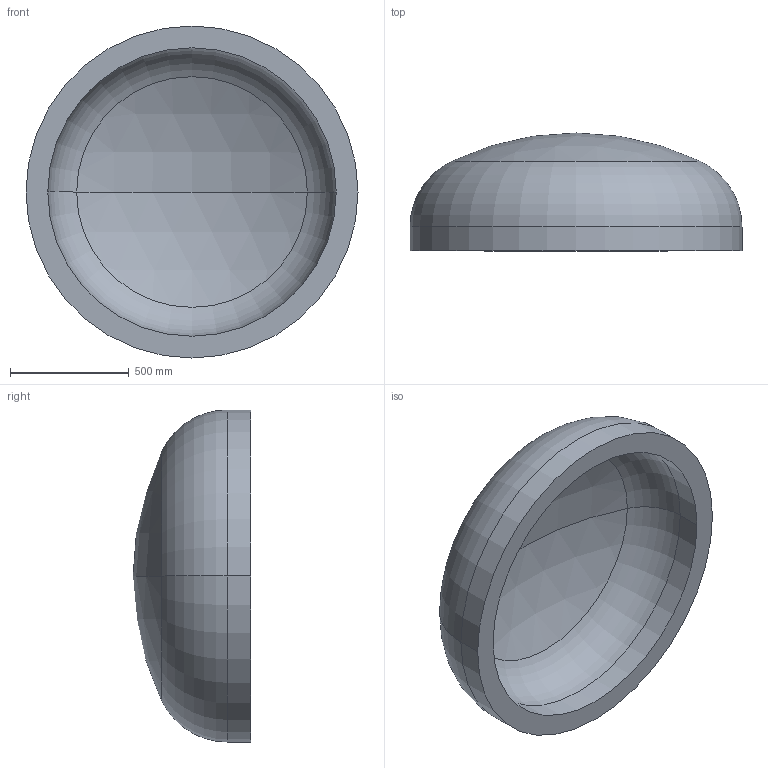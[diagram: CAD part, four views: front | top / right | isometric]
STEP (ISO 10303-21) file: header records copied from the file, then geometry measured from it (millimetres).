
FILE_DESCRIPTION (( 'STEP AP203' ), '1' );
FILE_NAME ('DIN 28013 Korbbogenform_-_Boden DIN 28013 - 1400 x 100 - I - s=92.step', '2016-07-01T10:27:45', ( '' ), ( '' ), 'SwSTEP 2.0', 'SolidWorks 2013', '' );
FILE_SCHEMA (( 'CONFIG_CONTROL_DESIGN' ));
Length unit declared in the file: millimetre
Products named in the file (1): DIN 28013 Korbbogenform_-_Boden DIN 28013 - 1400 x 100 - I - s=92
Bounding box: 1400 x 496.78 x 1400 mm (x, y, z)
Volume: 218153436 mm3; surface area: 5138238.6 mm2
Topology: 1 solids, 1 shells, 13 faces, 24 edges, 14 vertices
Faces by surface type: torus 4, cylinder 4, sphere 4, plane 1
Entity records: 407 total; most frequent: DIRECTION 72, CARTESIAN_POINT 52, ORIENTED_EDGE 48, AXIS2_PLACEMENT_3D 34, EDGE_CURVE 24, CIRCLE 20, EDGE_LOOP 14, VERTEX_POINT 14
